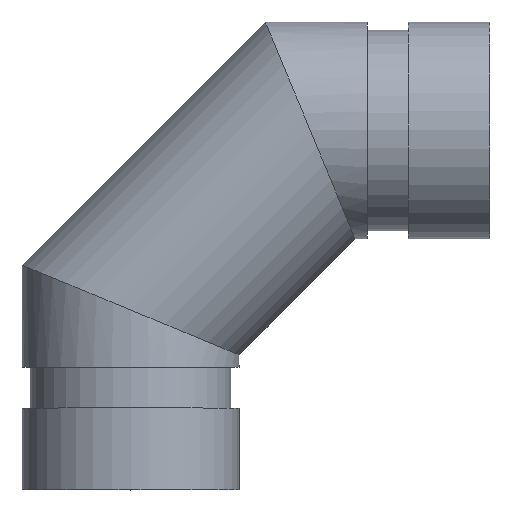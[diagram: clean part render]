
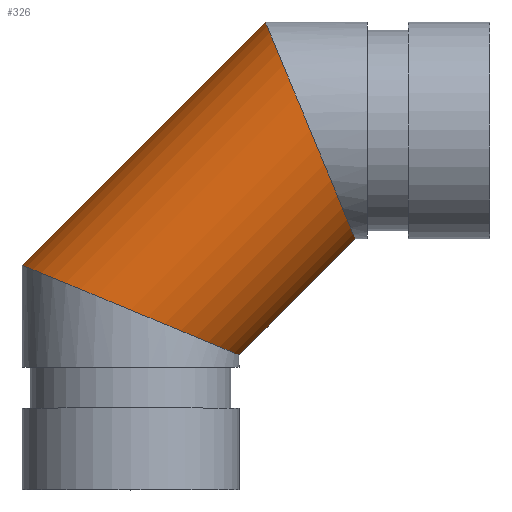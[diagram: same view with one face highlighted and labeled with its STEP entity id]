
A CAD part, top view. The second image highlights one B-rep face of the part: STEP entity #326.
In plain terms, the highlighted cylindrical face has radius 21.082 mm (diameter 42.164 mm), a full revolution.
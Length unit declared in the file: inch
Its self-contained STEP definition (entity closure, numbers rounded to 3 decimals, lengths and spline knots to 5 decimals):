
#51=ELLIPSE('',#383,0.89839,0.83);
#52=ELLIPSE('',#384,0.89839,0.83);
#53=ELLIPSE('',#385,0.89839,0.83);
#54=ELLIPSE('',#388,0.89839,0.83);
#55=ELLIPSE('',#389,0.89839,0.83);
#56=ELLIPSE('',#390,0.89839,0.83);
#82=FACE_OUTER_BOUND('',#103,.T.);
#103=EDGE_LOOP('',(#269,#270,#271,#272,#273,#274,#275,#276));
#115=LINE('',#606,#125);
#125=VECTOR('',#494,0.83);
#165=VERTEX_POINT('',#596);
#166=VERTEX_POINT('',#598);
#167=VERTEX_POINT('',#600);
#168=VERTEX_POINT('',#605);
#169=VERTEX_POINT('',#607);
#170=VERTEX_POINT('',#609);
#201=EDGE_CURVE('',#165,#166,#51,.T.);
#202=EDGE_CURVE('',#167,#166,#52,.T.);
#203=EDGE_CURVE('',#167,#165,#53,.T.);
#204=EDGE_CURVE('',#165,#168,#115,.T.);
#205=EDGE_CURVE('',#168,#169,#54,.T.);
#206=EDGE_CURVE('',#170,#169,#55,.T.);
#207=EDGE_CURVE('',#170,#168,#56,.T.);
#269=ORIENTED_EDGE('',*,*,#203,.F.);
#270=ORIENTED_EDGE('',*,*,#202,.T.);
#271=ORIENTED_EDGE('',*,*,#201,.F.);
#272=ORIENTED_EDGE('',*,*,#204,.T.);
#273=ORIENTED_EDGE('',*,*,#205,.T.);
#274=ORIENTED_EDGE('',*,*,#206,.F.);
#275=ORIENTED_EDGE('',*,*,#207,.T.);
#276=ORIENTED_EDGE('',*,*,#204,.F.);
#293=CYLINDRICAL_SURFACE('',#387,0.83);
#326=ADVANCED_FACE('',(#82),#293,.T.);
#383=AXIS2_PLACEMENT_3D('',#599,#484,#485);
#384=AXIS2_PLACEMENT_3D('',#601,#486,#487);
#385=AXIS2_PLACEMENT_3D('',#602,#488,#489);
#387=AXIS2_PLACEMENT_3D('',#604,#492,#493);
#388=AXIS2_PLACEMENT_3D('',#608,#495,#496);
#389=AXIS2_PLACEMENT_3D('',#610,#497,#498);
#390=AXIS2_PLACEMENT_3D('',#611,#499,#500);
#484=DIRECTION('center_axis',(-0.383,-0.924,0.));
#485=DIRECTION('ref_axis',(0.924,-0.383,0.));
#486=DIRECTION('center_axis',(0.383,0.924,0.));
#487=DIRECTION('ref_axis',(0.924,-0.383,0.));
#488=DIRECTION('center_axis',(-0.383,-0.924,0.));
#489=DIRECTION('ref_axis',(0.924,-0.383,0.));
#492=DIRECTION('center_axis',(-0.707,-0.707,0.));
#493=DIRECTION('ref_axis',(0.707,-0.707,0.));
#494=DIRECTION('',(0.707,0.707,0.));
#495=DIRECTION('center_axis',(-0.924,-0.383,0.));
#496=DIRECTION('ref_axis',(0.383,-0.924,0.));
#497=DIRECTION('center_axis',(0.924,0.383,0.));
#498=DIRECTION('ref_axis',(0.383,-0.924,0.));
#499=DIRECTION('center_axis',(-0.924,-0.383,0.));
#500=DIRECTION('ref_axis',(0.383,-0.924,0.));
#596=CARTESIAN_POINT('',(-0.83,-1.0312,0.));
#598=CARTESIAN_POINT('',(0.,-1.375,-0.83));
#599=CARTESIAN_POINT('Origin',(0.,-1.375,0.));
#600=CARTESIAN_POINT('',(0.,-1.375,0.83));
#601=CARTESIAN_POINT('Origin',(0.,-1.375,0.));
#602=CARTESIAN_POINT('Origin',(0.,-1.375,0.));
#604=CARTESIAN_POINT('Origin',(1.375,0.,0.));
#605=CARTESIAN_POINT('',(1.0312,0.83,0.));
#606=CARTESIAN_POINT('',(0.7881,0.5869,0.));
#607=CARTESIAN_POINT('',(1.375,0.,-0.83));
#608=CARTESIAN_POINT('Origin',(1.375,0.,0.));
#609=CARTESIAN_POINT('',(1.375,0.,0.83));
#610=CARTESIAN_POINT('Origin',(1.375,0.,0.));
#611=CARTESIAN_POINT('Origin',(1.375,0.,0.));
